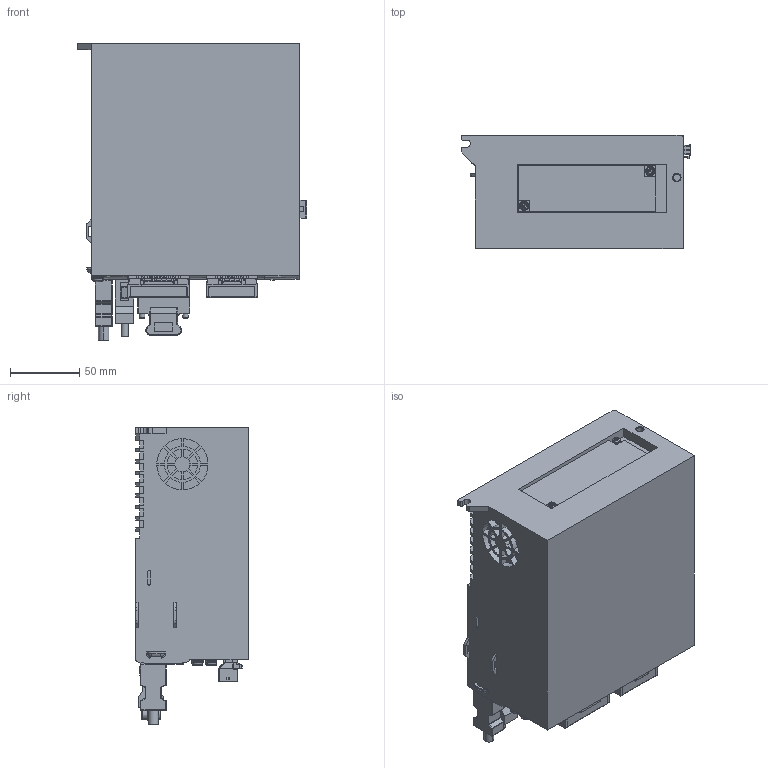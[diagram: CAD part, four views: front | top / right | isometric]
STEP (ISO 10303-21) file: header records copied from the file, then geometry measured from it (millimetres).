
FILE_DESCRIPTION (( 'STEP AP214' ), '1' );
FILE_NAME ('Ω6s-AN-C型-全能&直线-整机外形图.STEP', '2023-04-19T05:42:16', ( '' ), ( '' ), 'SwSTEP 2.0', 'SolidWorks 2014', '' );
FILE_SCHEMA (( 'AUTOMOTIVE_DESIGN' ));
Length unit declared in the file: millimetre
Products named in the file (27): plug-t3507505; Ω6s-AN-C型-全能&直线-整机外形图; M4-H8; jack-t3507506; MUF-PK10K-X; JDZcoder; 1.5KWK; M3-H6; jack-t3507505; 26pinMDRplug; STOM2X04P; STOG2X4P; plug-t3507506
Assembly tree (14 placements, depth 2):
  Ω6s-AN-C型-全能&直线-整机外形图
    1.5KWK
    M4-H8  x2
    26pinMDRplug
    jack-t3507505
    jack-t3507506
    plug-t3507505
    STOM2X04P
    JDZcoder
    MUF-PK10K-X
    plug-t3507506
    STOG2X4P
    M3-H6  x2
  M4-H8
  jack-t3507506
  MUF-PK10K-X
  1.5KWK
Bounding box: 165.5 x 81.5 x 214.2 mm (x, y, z)
Volume: 1856218.4 mm3; surface area: 239196.4 mm2
Topology: 25 solids, 25 shells, 4683 faces, 13014 edges, 8443 vertices
Faces by surface type: plane 3636, cylinder 541, bspline 452, sphere 22, cone 20, torus 12
Entity records: 166212 total; most frequent: CARTESIAN_POINT 50532, ORIENTED_EDGE 25588, DIRECTION 20634, EDGE_CURVE 12794, LINE 10594, VECTOR 10594, VERTEX_POINT 8315, AXIS2_PLACEMENT_3D 5020
